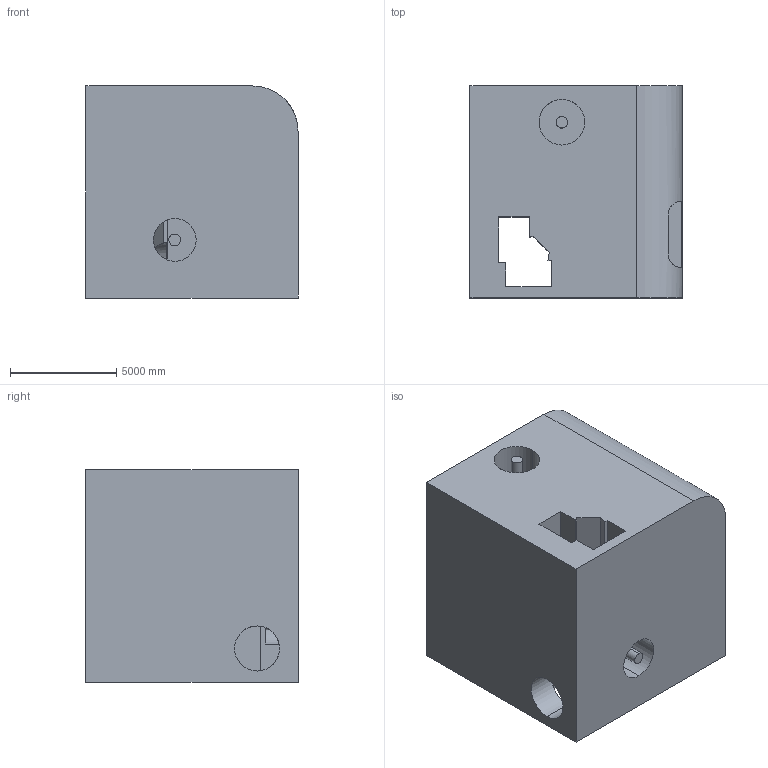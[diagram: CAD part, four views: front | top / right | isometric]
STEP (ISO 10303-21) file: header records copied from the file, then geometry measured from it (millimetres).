
FILE_DESCRIPTION (( 'STEP AP203' ), '1' );
FILE_NAME ('788.STEP', '2022-08-04T15:52:26', ( 'user' ), ( '' ), 'SwSTEP 2.0', 'SolidWorks 2021', '' );
FILE_SCHEMA (( 'CONFIG_CONTROL_DESIGN' ));
Length unit declared in the file: centimetre
Products named in the file (1): 788
Bounding box: 10000 x 10000 x 10000 mm (x, y, z)
Volume: 893055845615.7 mm3; surface area: 752726066.3 mm2
Topology: 1 solids, 1 shells, 44 faces, 120 edges, 80 vertices
Faces by surface type: plane 28, cylinder 16
Entity records: 1640 total; most frequent: CARTESIAN_POINT 428, ORIENTED_EDGE 240, DIRECTION 232, EDGE_CURVE 120, VERTEX_POINT 80, VECTOR 78, LINE 78, AXIS2_PLACEMENT_3D 77
